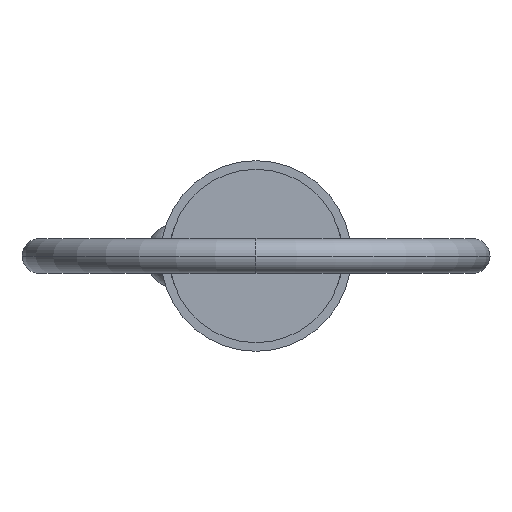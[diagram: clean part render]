
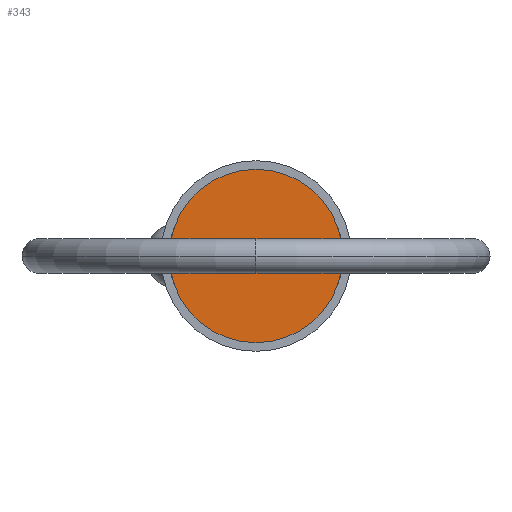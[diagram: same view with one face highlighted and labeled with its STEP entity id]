
A CAD part, left-side view. The second image highlights one B-rep face of the part: STEP entity #343.
In plain terms, the highlighted planar face has unit normal (-1, 0, 0).
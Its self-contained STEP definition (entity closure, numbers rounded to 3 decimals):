
#44 = CARTESIAN_POINT ( 'NONE',  ( 0., 0., 0. ) ) ;
#125 = DIRECTION ( 'NONE',  ( 1., 0., 0. ) ) ;
#145 = DIRECTION ( 'NONE',  ( 0., 0., -1. ) ) ;
#158 = VERTEX_POINT ( 'NONE', #497 ) ;
#235 = DIRECTION ( 'NONE',  ( 0., 0., 1. ) ) ;
#278 = CIRCLE ( 'NONE', #330, 12.7 ) ;
#330 = AXIS2_PLACEMENT_3D ( 'NONE', #808, #1051, #369 ) ;
#343 = ADVANCED_FACE ( 'NONE', ( #864 ), #544, .T. ) ;
#369 = DIRECTION ( 'NONE',  ( 0., 0., -1. ) ) ;
#425 = CARTESIAN_POINT ( 'NONE',  ( 0., 0., 12.7 ) ) ;
#489 = VERTEX_POINT ( 'NONE', #425 ) ;
#497 = CARTESIAN_POINT ( 'NONE',  ( 0., 0., -12.7 ) ) ;
#544 = PLANE ( 'NONE',  #640 ) ;
#553 = EDGE_CURVE ( 'NONE', #489, #158, #800, .T. ) ;
#566 = EDGE_LOOP ( 'NONE', ( #734, #1079 ) ) ;
#570 = EDGE_CURVE ( 'NONE', #158, #489, #278, .T. ) ;
#622 = AXIS2_PLACEMENT_3D ( 'NONE', #1045, #125, #145 ) ;
#640 = AXIS2_PLACEMENT_3D ( 'NONE', #44, #823, #235 ) ;
#734 = ORIENTED_EDGE ( 'NONE', *, *, #570, .F. ) ;
#800 = CIRCLE ( 'NONE', #622, 12.7 ) ;
#808 = CARTESIAN_POINT ( 'NONE',  ( 0., 0., 0. ) ) ;
#823 = DIRECTION ( 'NONE',  ( -1., 0., 0. ) ) ;
#864 = FACE_OUTER_BOUND ( 'NONE', #566, .T. ) ;
#1045 = CARTESIAN_POINT ( 'NONE',  ( 0., 0., 0. ) ) ;
#1051 = DIRECTION ( 'NONE',  ( 1., 0., 0. ) ) ;
#1079 = ORIENTED_EDGE ( 'NONE', *, *, #553, .F. ) ;
